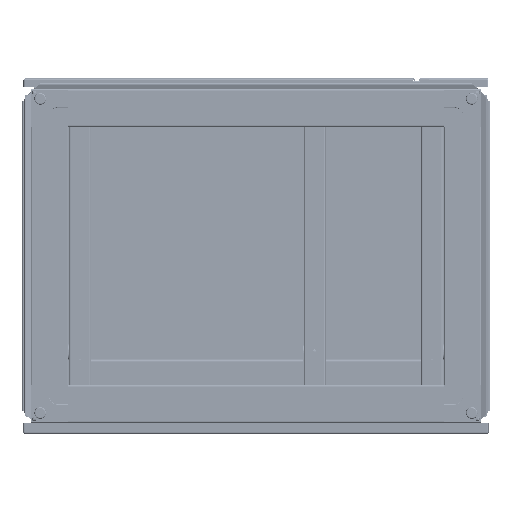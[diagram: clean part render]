
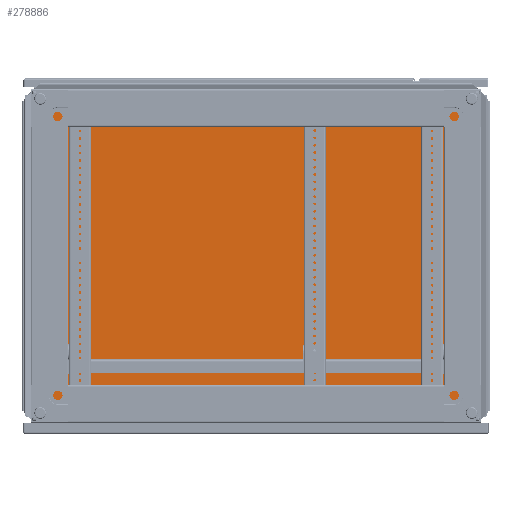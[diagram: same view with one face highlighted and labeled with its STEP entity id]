
A CAD part, front view. The second image highlights one B-rep face of the part: STEP entity #278886.
In plain terms, the highlighted planar face has unit normal (0, -1, 0).
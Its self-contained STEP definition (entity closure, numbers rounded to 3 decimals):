
#276414=DIRECTION('',(-1.,0.,0.));
#276415=VECTOR('',#276414,762.5);
#276416=CARTESIAN_POINT('',(381.25,11.5,281.25));
#276417=LINE('',#276416,#276415);
#276751=DIRECTION('',(0.,0.,-1.));
#276752=VECTOR('',#276751,562.5);
#276753=CARTESIAN_POINT('',(-381.25,11.5,281.25));
#276754=LINE('',#276753,#276752);
#276770=DIRECTION('',(-1.,0.,0.));
#276771=VECTOR('',#276770,762.5);
#276772=CARTESIAN_POINT('',(381.25,11.5,-281.25));
#276773=LINE('',#276772,#276771);
#276774=DIRECTION('',(0.,0.,-1.));
#276775=VECTOR('',#276774,562.5);
#276776=CARTESIAN_POINT('',(381.25,11.5,281.25));
#276777=LINE('',#276776,#276775);
#276778=CARTESIAN_POINT('',(367.5,11.5,267.5));
#276779=DIRECTION('',(0.,1.,0.));
#276780=DIRECTION('',(1.,0.,0.));
#276781=AXIS2_PLACEMENT_3D('',#276778,#276779,#276780);
#276783=CARTESIAN_POINT('',(367.5,11.5,267.5));
#276784=DIRECTION('',(0.,1.,0.));
#276785=DIRECTION('',(-1.,0.,0.));
#276786=AXIS2_PLACEMENT_3D('',#276783,#276784,#276785);
#276788=CARTESIAN_POINT('',(367.5,11.5,-267.5));
#276789=DIRECTION('',(0.,-1.,0.));
#276790=DIRECTION('',(1.,0.,0.));
#276791=AXIS2_PLACEMENT_3D('',#276788,#276789,#276790);
#276793=CARTESIAN_POINT('',(367.5,11.5,-267.5));
#276794=DIRECTION('',(0.,-1.,0.));
#276795=DIRECTION('',(-1.,0.,0.));
#276796=AXIS2_PLACEMENT_3D('',#276793,#276794,#276795);
#276798=CARTESIAN_POINT('',(-367.5,11.5,267.5));
#276799=DIRECTION('',(0.,-1.,0.));
#276800=DIRECTION('',(-1.,0.,0.));
#276801=AXIS2_PLACEMENT_3D('',#276798,#276799,#276800);
#276803=CARTESIAN_POINT('',(-367.5,11.5,267.5));
#276804=DIRECTION('',(0.,-1.,0.));
#276805=DIRECTION('',(1.,0.,0.));
#276806=AXIS2_PLACEMENT_3D('',#276803,#276804,#276805);
#276808=CARTESIAN_POINT('',(-367.5,11.5,-267.5));
#276809=DIRECTION('',(0.,1.,0.));
#276810=DIRECTION('',(-1.,0.,0.));
#276811=AXIS2_PLACEMENT_3D('',#276808,#276809,#276810);
#276813=CARTESIAN_POINT('',(-367.5,11.5,-267.5));
#276814=DIRECTION('',(0.,1.,0.));
#276815=DIRECTION('',(1.,0.,0.));
#276816=AXIS2_PLACEMENT_3D('',#276813,#276814,#276815);
#276818=CARTESIAN_POINT('',(299.75,11.5,0.));
#276819=DIRECTION('',(0.,-1.,0.));
#276820=DIRECTION('',(0.,0.,-1.));
#276821=AXIS2_PLACEMENT_3D('',#276818,#276819,#276820);
#276823=CARTESIAN_POINT('',(299.75,11.5,0.));
#276824=DIRECTION('',(0.,-1.,0.));
#276825=DIRECTION('',(0.,0.,1.));
#276826=AXIS2_PLACEMENT_3D('',#276823,#276824,#276825);
#276828=CARTESIAN_POINT('',(-299.75,11.5,0.));
#276829=DIRECTION('',(0.,-1.,0.));
#276830=DIRECTION('',(0.,0.,-1.));
#276831=AXIS2_PLACEMENT_3D('',#276828,#276829,#276830);
#276833=CARTESIAN_POINT('',(-299.75,11.5,0.));
#276834=DIRECTION('',(0.,-1.,0.));
#276835=DIRECTION('',(0.,0.,1.));
#276836=AXIS2_PLACEMENT_3D('',#276833,#276834,#276835);
#277464=CARTESIAN_POINT('',(377.993,11.5,267.5));
#277465=CARTESIAN_POINT('',(357.007,11.5,267.5));
#277466=VERTEX_POINT('',#277464);
#277467=VERTEX_POINT('',#277465);
#277488=CARTESIAN_POINT('',(377.993,11.5,-267.5));
#277489=CARTESIAN_POINT('',(357.007,11.5,-267.5));
#277490=VERTEX_POINT('',#277488);
#277491=VERTEX_POINT('',#277489);
#277512=CARTESIAN_POINT('',(-377.993,11.5,267.5));
#277513=CARTESIAN_POINT('',(-357.007,11.5,267.5));
#277514=VERTEX_POINT('',#277512);
#277515=VERTEX_POINT('',#277513);
#277536=CARTESIAN_POINT('',(-377.993,11.5,-267.5));
#277537=CARTESIAN_POINT('',(-357.007,11.5,-267.5));
#277538=VERTEX_POINT('',#277536);
#277539=VERTEX_POINT('',#277537);
#277548=CARTESIAN_POINT('',(299.75,11.5,-0.5));
#277549=CARTESIAN_POINT('',(299.75,11.5,0.5));
#277550=VERTEX_POINT('',#277548);
#277551=VERTEX_POINT('',#277549);
#277552=CARTESIAN_POINT('',(-299.75,11.5,-0.5));
#277553=CARTESIAN_POINT('',(-299.75,11.5,0.5));
#277554=VERTEX_POINT('',#277552);
#277555=VERTEX_POINT('',#277553);
#277580=CARTESIAN_POINT('',(381.25,11.5,281.25));
#277582=VERTEX_POINT('',#277580);
#277584=CARTESIAN_POINT('',(-381.25,11.5,281.25));
#277585=VERTEX_POINT('',#277584);
#277596=CARTESIAN_POINT('',(381.25,11.5,-281.25));
#277598=VERTEX_POINT('',#277596);
#277602=CARTESIAN_POINT('',(-381.25,11.5,-281.25));
#277603=VERTEX_POINT('',#277602);
#278839=CARTESIAN_POINT('',(381.25,11.5,-281.25));
#278840=DIRECTION('',(0.,1.,0.));
#278841=DIRECTION('',(0.,0.,1.));
#278842=AXIS2_PLACEMENT_3D('',#278839,#278840,#278841);
#278843=PLANE('',#278842);
#278844=ORIENTED_EDGE('',*,*,#278363,.T.);
#278845=ORIENTED_EDGE('',*,*,#278829,.F.);
#278846=ORIENTED_EDGE('',*,*,#278257,.F.);
#278847=ORIENTED_EDGE('',*,*,#278325,.T.);
#278848=EDGE_LOOP('',(#278844,#278845,#278846,#278847));
#278849=FACE_OUTER_BOUND('',#278848,.F.);
#278851=ORIENTED_EDGE('',*,*,#278850,.F.);
#278853=ORIENTED_EDGE('',*,*,#278852,.F.);
#278854=EDGE_LOOP('',(#278851,#278853));
#278855=FACE_BOUND('',#278854,.F.);
#278857=ORIENTED_EDGE('',*,*,#278856,.T.);
#278859=ORIENTED_EDGE('',*,*,#278858,.T.);
#278860=EDGE_LOOP('',(#278857,#278859));
#278861=FACE_BOUND('',#278860,.F.);
#278863=ORIENTED_EDGE('',*,*,#278862,.T.);
#278865=ORIENTED_EDGE('',*,*,#278864,.T.);
#278866=EDGE_LOOP('',(#278863,#278865));
#278867=FACE_BOUND('',#278866,.F.);
#278869=ORIENTED_EDGE('',*,*,#278868,.F.);
#278871=ORIENTED_EDGE('',*,*,#278870,.F.);
#278872=EDGE_LOOP('',(#278869,#278871));
#278873=FACE_BOUND('',#278872,.F.);
#278875=ORIENTED_EDGE('',*,*,#278874,.T.);
#278877=ORIENTED_EDGE('',*,*,#278876,.T.);
#278878=EDGE_LOOP('',(#278875,#278877));
#278879=FACE_BOUND('',#278878,.F.);
#278881=ORIENTED_EDGE('',*,*,#278880,.T.);
#278883=ORIENTED_EDGE('',*,*,#278882,.T.);
#278884=EDGE_LOOP('',(#278881,#278883));
#278885=FACE_BOUND('',#278884,.F.);
#278886=ADVANCED_FACE('',(#278849,#278855,#278861,#278867,#278873,#278879,
#278885),#278843,.F.);
#276782=CIRCLE('',#276781,10.493);
#276787=CIRCLE('',#276786,10.493);
#276792=CIRCLE('',#276791,10.493);
#276797=CIRCLE('',#276796,10.493);
#276802=CIRCLE('',#276801,10.493);
#276807=CIRCLE('',#276806,10.493);
#276812=CIRCLE('',#276811,10.493);
#276817=CIRCLE('',#276816,10.493);
#276822=CIRCLE('',#276821,0.5);
#276827=CIRCLE('',#276826,0.5);
#276832=CIRCLE('',#276831,0.5);
#276837=CIRCLE('',#276836,0.5);
#278257=EDGE_CURVE('',#277582,#277585,#276417,.T.);
#278325=EDGE_CURVE('',#277582,#277598,#276777,.T.);
#278363=EDGE_CURVE('',#277598,#277603,#276773,.T.);
#278829=EDGE_CURVE('',#277585,#277603,#276754,.T.);
#278850=EDGE_CURVE('',#277466,#277467,#276782,.T.);
#278852=EDGE_CURVE('',#277467,#277466,#276787,.T.);
#278856=EDGE_CURVE('',#277490,#277491,#276792,.T.);
#278858=EDGE_CURVE('',#277491,#277490,#276797,.T.);
#278862=EDGE_CURVE('',#277514,#277515,#276802,.T.);
#278864=EDGE_CURVE('',#277515,#277514,#276807,.T.);
#278868=EDGE_CURVE('',#277538,#277539,#276812,.T.);
#278870=EDGE_CURVE('',#277539,#277538,#276817,.T.);
#278874=EDGE_CURVE('',#277550,#277551,#276822,.T.);
#278876=EDGE_CURVE('',#277551,#277550,#276827,.T.);
#278880=EDGE_CURVE('',#277554,#277555,#276832,.T.);
#278882=EDGE_CURVE('',#277555,#277554,#276837,.T.);
